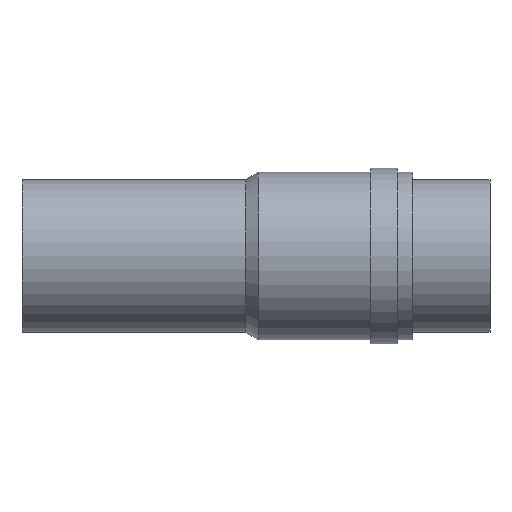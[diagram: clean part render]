
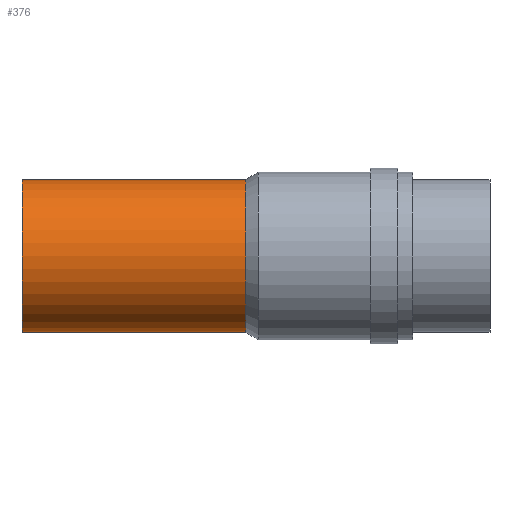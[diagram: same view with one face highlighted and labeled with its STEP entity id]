
A CAD part, front view. The second image highlights one B-rep face of the part: STEP entity #376.
In plain terms, the highlighted cylindrical face has radius 125 mm (diameter 250 mm), a full revolution.
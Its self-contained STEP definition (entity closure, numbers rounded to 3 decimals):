
#67=FACE_BOUND($,#162,.T.);
#96=FACE_OUTER_BOUND($,#161,.T.);
#161=EDGE_LOOP($,(#326));
#162=EDGE_LOOP($,(#327));
#180=CIRCLE($,#416,125.);
#195=CIRCLE($,#446,125.);
#213=VERTEX_POINT($,#634);
#228=VERTEX_POINT($,#679);
#246=EDGE_CURVE($,#213,#213,#180,.T.);
#261=EDGE_CURVE($,#228,#228,#195,.T.);
#326=ORIENTED_EDGE($,*,*,#246,.F.);
#327=ORIENTED_EDGE($,*,*,#261,.T.);
#343=CYLINDRICAL_SURFACE($,#447,125.);
#376=ADVANCED_FACE($,(#96,#67),#343,.T.);
#416=AXIS2_PLACEMENT_3D($,#635,#518,#519);
#446=AXIS2_PLACEMENT_3D($,#680,#578,#579);
#447=AXIS2_PLACEMENT_3D($,#681,#580,#581);
#518=DIRECTION('center_axis',(1.,0.,0.));
#519=DIRECTION('ref_axis',(0.,1.,0.));
#578=DIRECTION('center_axis',(1.,0.,0.));
#579=DIRECTION('ref_axis',(0.,1.,0.));
#580=DIRECTION('center_axis',(1.,0.,0.));
#581=DIRECTION('ref_axis',(0.,1.,0.));
#634=CARTESIAN_POINT('',(-273.871,125.,0.));
#635=CARTESIAN_POINT('Origin',(-273.871,0.,0.));
#679=CARTESIAN_POINT('',(-640.,125.,0.));
#680=CARTESIAN_POINT('Origin',(-640.,0.,0.));
#681=CARTESIAN_POINT('Origin',(-531.5,0.,0.));
